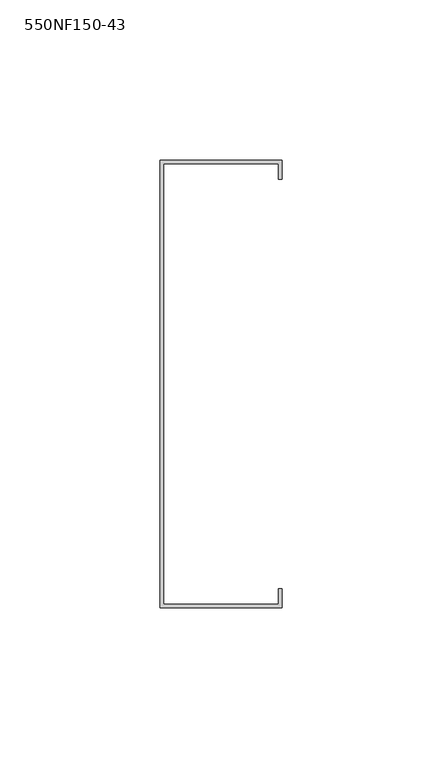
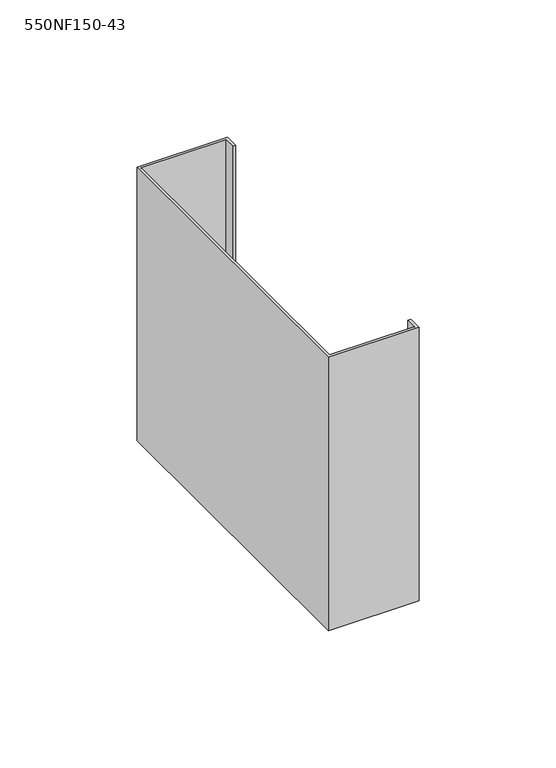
"""IFC4 building model written with IfcOpenShell, lengths in millimetres: column geometry, BIMSF-SSMA-S-Column : 550NF150-43."""

from ifc_helpers import new_model, si_unit, frame, origin, place, context, project, spatial, polyline, outline, extrude, source, transform, mapped, element, save


def column_550nf150_43_6fda3f71(model_context):
    return source(origin(), model_context, "Body", "SweptSolid", [
        extrude(outline(polyline([(-11.9977877, -80.5871249), (-11.9977877, 59.1128751), (26.1022123, 59.1128751), (26.1022123, 53.1879908), (24.952528, 53.1879908), (24.952528, 57.9631908), (-10.8481035, 57.9631908), (-10.8481035, -79.4374407), (24.952528, -79.4374407), (24.952528, -74.6622407), (26.1022123, -74.6622407), (26.1022123, -80.5871249), (-11.9977877, -80.5871249)])), frame((0.0, 0.0, 5525.3929688), z_axis=(0.0, 0.0, 1.0), x_axis=(1.0, 0.0, 0.0)), (0.0, 0.0, 1.0), 121.6745617),
    ])


if __name__ == "__main__":
    model = new_model("IFC4")
    model_context = context("Model", 3, world=origin())
    ifc_project = project(units=[si_unit("LENGTHUNIT", "METRE", prefix="MILLI")], contexts=[model_context])
    site = spatial("IfcSite", under=ifc_project)
    building = spatial("IfcBuilding", under=site)
    placement = place(None, origin())
    column_550nf150_43_shape = column_550nf150_43_6fda3f71(model_context)
    element("IfcColumn", 1, ObjectType="BIMSF-SSMA-S-Column : 550NF150-43", at=placement, inside=building, context=model_context, shape_type="MappedRepresentation", body=[
        mapped(column_550nf150_43_shape, transform((0.0, 0.0, 0.0), x_axis=(1.0, 0.0, 0.0), y_axis=(0.0, 1.0, 0.0), z_axis=(0.0, 0.0, 1.0))),
    ])
    save(model, "model.ifc")
